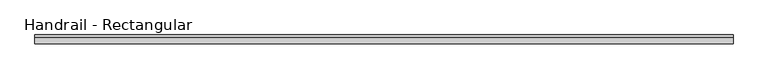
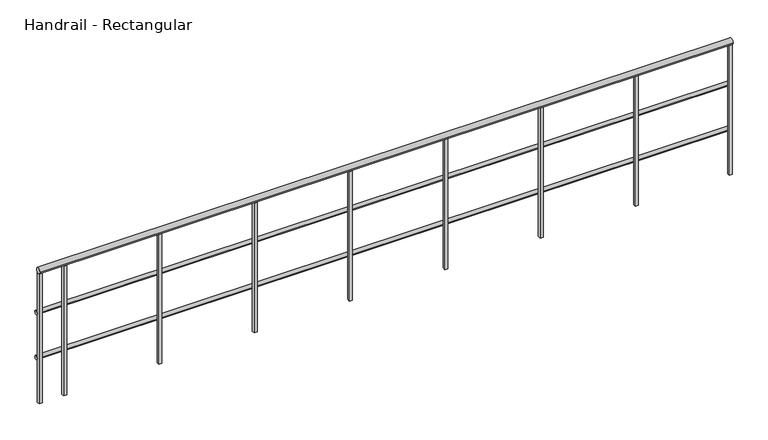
"""IFC4 building model written with IfcOpenShell, lengths in millimetres: railing geometry, Handrail - Rectangular."""

from ifc_helpers import new_model, si_unit, point, frame, frame_2d, origin, place, context, project, spatial, polyline, circle_curve, trimmed, segment, composite_curve, outline, extrude, source, transform, mapped, element, save


def handrail_rectangular_7fa22d97(model_context):
    return source(origin(), model_context, "Body", "SweptSolid", [
        extrude(outline(composite_curve([segment(trimmed(circle_curve(frame_2d((11970.2316867, 9740.9)), 12.7), [point((11982.9316867, 9740.9))], [point((11957.5316867, 9740.9))], False, "CARTESIAN"), True, "CONTINUOUS"), segment(trimmed(circle_curve(frame_2d((11970.2316867, 9740.9)), 12.7), [point((11957.5316867, 9740.9))], [point((11982.9316867, 9740.9))], False, "CARTESIAN"), True, "CONTINUOUS")], self_intersect=False)), frame((-30440.2839563, 0.0, 0.0), z_axis=(1.0, 0.0, 0.0), x_axis=(0.0, 1.0, 0.0)), (0.0, 0.0, 1.0), 4432.3),
        extrude(outline(composite_curve([segment(trimmed(circle_curve(frame_2d((11970.2316867, 9436.1)), 12.7), [point((11982.9316867, 9436.1))], [point((11957.5316867, 9436.1))], False, "CARTESIAN"), True, "CONTINUOUS"), segment(trimmed(circle_curve(frame_2d((11970.2316867, 9436.1)), 12.7), [point((11957.5316867, 9436.1))], [point((11982.9316867, 9436.1))], False, "CARTESIAN"), True, "CONTINUOUS")], self_intersect=False)), frame((-30440.2839563, 0.0, 0.0), z_axis=(1.0, 0.0, 0.0), x_axis=(0.0, 1.0, 0.0)), (0.0, 0.0, 1.0), 4432.3),
        extrude(outline(composite_curve([segment(trimmed(circle_curve(frame_2d((11944.8316867, 10039.35)), 19.05), [point((11963.8816867, 10039.35))], [point((11925.7816867, 10039.35))], False, "CARTESIAN"), True, "CONTINUOUS"), segment(trimmed(circle_curve(frame_2d((11944.8316867, 10039.35)), 19.05), [point((11925.7816867, 10039.35))], [point((11963.8816867, 10039.35))], False, "CARTESIAN"), True, "CONTINUOUS")], self_intersect=False)), frame((-30440.2839563, 0.0, 0.0), z_axis=(1.0, 0.0, 0.0), x_axis=(0.0, 1.0, 0.0)), (0.0, 0.0, 1.0), 4432.3),
        extrude(outline(polyline([(-30265.6589563, 11935.3066867), (-30284.7089563, 11935.3066867), (-30284.7089563, 11954.3566867), (-30265.6589563, 11954.3566867), (-30265.6589563, 11935.3066867)])), frame((0.0, 0.0, 9144.0), z_axis=(0.0, 0.0, 1.0), x_axis=(1.0, 0.0, 0.0)), (0.0, 0.0, 1.0), 876.3),
        extrude(outline(polyline([(-29656.0589563, 11935.3066867), (-29675.1089563, 11935.3066867), (-29675.1089563, 11954.3566867), (-29656.0589563, 11954.3566867), (-29656.0589563, 11935.3066867)])), frame((0.0, 0.0, 9144.0), z_axis=(0.0, 0.0, 1.0), x_axis=(1.0, 0.0, 0.0)), (0.0, 0.0, 1.0), 876.3),
        extrude(outline(polyline([(-29046.4589563, 11935.3066867), (-29065.5089563, 11935.3066867), (-29065.5089563, 11954.3566867), (-29046.4589563, 11954.3566867), (-29046.4589563, 11935.3066867)])), frame((0.0, 0.0, 9144.0), z_axis=(0.0, 0.0, 1.0), x_axis=(1.0, 0.0, 0.0)), (0.0, 0.0, 1.0), 876.3),
        extrude(outline(polyline([(-28436.8589563, 11935.3066867), (-28455.9089563, 11935.3066867), (-28455.9089563, 11954.3566867), (-28436.8589563, 11954.3566867), (-28436.8589563, 11935.3066867)])), frame((0.0, 0.0, 9144.0), z_axis=(0.0, 0.0, 1.0), x_axis=(1.0, 0.0, 0.0)), (0.0, 0.0, 1.0), 876.3),
        extrude(outline(polyline([(-27827.2589563, 11935.3066867), (-27846.3089563, 11935.3066867), (-27846.3089563, 11954.3566867), (-27827.2589563, 11954.3566867), (-27827.2589563, 11935.3066867)])), frame((0.0, 0.0, 9144.0), z_axis=(0.0, 0.0, 1.0), x_axis=(1.0, 0.0, 0.0)), (0.0, 0.0, 1.0), 876.3),
        extrude(outline(polyline([(-27217.6589563, 11935.3066867), (-27236.7089563, 11935.3066867), (-27236.7089563, 11954.3566867), (-27217.6589563, 11954.3566867), (-27217.6589563, 11935.3066867)])), frame((0.0, 0.0, 9144.0), z_axis=(0.0, 0.0, 1.0), x_axis=(1.0, 0.0, 0.0)), (0.0, 0.0, 1.0), 876.3),
        extrude(outline(polyline([(-26608.0589563, 11935.3066867), (-26627.1089563, 11935.3066867), (-26627.1089563, 11954.3566867), (-26608.0589563, 11954.3566867), (-26608.0589563, 11935.3066867)])), frame((0.0, 0.0, 9144.0), z_axis=(0.0, 0.0, 1.0), x_axis=(1.0, 0.0, 0.0)), (0.0, 0.0, 1.0), 876.3),
        extrude(outline(polyline([(-30421.2339563, 11935.3066867), (-30440.2839563, 11935.3066867), (-30440.2839563, 11954.3566867), (-30421.2339563, 11954.3566867), (-30421.2339563, 11935.3066867)])), frame((0.0, 0.0, 9144.0), z_axis=(0.0, 0.0, 1.0), x_axis=(1.0, 0.0, 0.0)), (0.0, 0.0, 1.0), 876.3),
        extrude(outline(polyline([(-26007.9839563, 11935.3066867), (-26027.0339563, 11935.3066867), (-26027.0339563, 11954.3566867), (-26007.9839563, 11954.3566867), (-26007.9839563, 11935.3066867)])), frame((0.0, 0.0, 9144.0), z_axis=(0.0, 0.0, 1.0), x_axis=(1.0, 0.0, 0.0)), (0.0, 0.0, 1.0), 876.3),
    ])


if __name__ == "__main__":
    model = new_model("IFC4")
    model_context = context("Model", 3, world=origin())
    ifc_project = project(units=[si_unit("LENGTHUNIT", "METRE", prefix="MILLI")], contexts=[model_context])
    site = spatial("IfcSite", under=ifc_project)
    building = spatial("IfcBuilding", under=site)
    placement = place(None, origin())
    handrail_rectangular_shape = handrail_rectangular_7fa22d97(model_context)
    element("IfcRailing", 1, ObjectType="Handrail - Rectangular", at=placement, inside=building, context=model_context, shape_type="MappedRepresentation", body=[
        mapped(handrail_rectangular_shape, transform((0.0, 0.0, 0.0), x_axis=(1.0, 0.0, 0.0), y_axis=(0.0, 1.0, 0.0), z_axis=(0.0, 0.0, 1.0))),
    ])
    save(model, "model.ifc")
